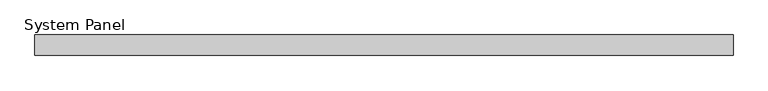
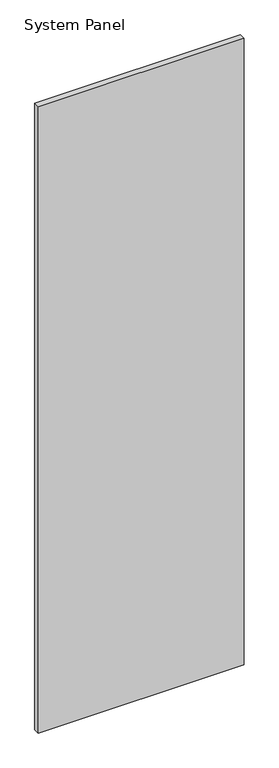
"""IFC4 building model written with IfcOpenShell, lengths in millimetres: plate geometry, System Panel : Panel_Glazed_Generic Showcase_30mm."""

from ifc_helpers import new_model, si_unit, origin, origin_with_axes, place, context, project, spatial, polyline, outline, extrude, source, transform, mapped, element, save


def system_panel_3dbd57ef(model_context):
    return source(origin(), model_context, "Body", "SweptSolid", [
        extrude(outline(polyline([(512.5, -30.0), (-512.5, -30.0), (-512.5, 0.0), (512.5, 0.0), (512.5, -30.0)])), origin_with_axes(), (0.0, 0.0, 1.0), 3300.0),
    ])


if __name__ == "__main__":
    model = new_model("IFC4")
    model_context = context("Model", 3, world=origin())
    ifc_project = project(units=[si_unit("LENGTHUNIT", "METRE", prefix="MILLI")], contexts=[model_context])
    site = spatial("IfcSite", under=ifc_project)
    building = spatial("IfcBuilding", under=site)
    placement = place(None, origin())
    system_panel_shape = system_panel_3dbd57ef(model_context)
    element("IfcPlate", 1, ObjectType="System Panel : Panel_Glazed_Generic Showcase_30mm", at=placement, inside=building, context=model_context, shape_type="MappedRepresentation", body=[
        mapped(system_panel_shape, transform((0.0, 0.0, 0.0), x_axis=(1.0, 0.0, 0.0), y_axis=(0.0, 1.0, 0.0), z_axis=(0.0, 0.0, 1.0))),
    ])
    save(model, "model.ifc")
